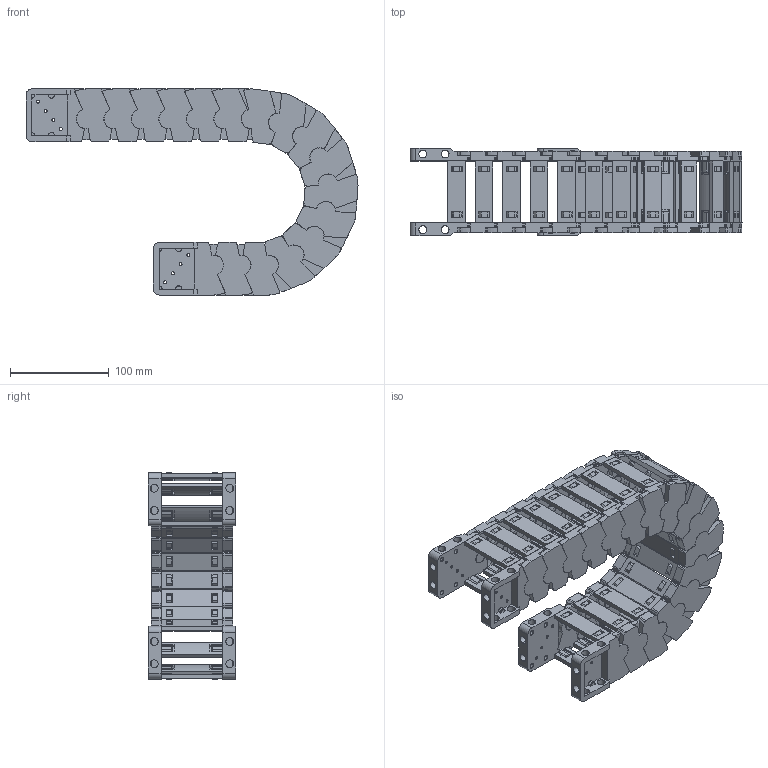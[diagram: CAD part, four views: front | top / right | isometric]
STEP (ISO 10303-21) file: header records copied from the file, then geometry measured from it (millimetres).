
FILE_DESCRIPTION((''),'2;1');
FILE_NAME('JY-42X62-R75_ASM','2022-05-06T10:46:45',('admin'),(''),'CREO PARAMETRIC BY PTC INC, 2021164','CREO PARAMETRIC BY PTC INC, 2021164','');
FILE_SCHEMA(('CONFIG_CONTROL_DESIGN','GEOMETRIC_VALIDATION_PROPERTIES_MIM'));
Length unit declared in the file: millimetre
Products named in the file (11): 42XL-L; 42-52XL-YP; 42XL-R; ASM0001_ASM; 42-LTT-A-L; 42-LTT-A-R; 42XL-LTT-A_ASM; 42-LTT-B-L; 42-LTT-B-R; 42XL-LTT-B_ASM; JY-42X62-R75_ASM
Assembly tree (30 placements, depth 3):
  JY-42X62-R75_ASM
    ASM0001_ASM  x16
      42XL-L
      42-52XL-YP
      42XL-R
    42XL-LTT-A_ASM
      42-LTT-A-L
      42-52XL-YP  x2
      42-LTT-A-R
    42XL-LTT-B_ASM
      42-LTT-B-L
      42-52XL-YP  x2
      42-LTT-B-R
Bounding box: 335.76 x 88.5 x 208.45 mm (x, y, z)
Volume: 678080.2 mm3; surface area: 397998.6 mm2
Topology: 72 solids, 72 shells, 3978 faces, 11912 edges, 8060 vertices
Faces by surface type: plane 2638, cylinder 930, cone 326, bspline 66, torus 18
Entity records: 27215 total; most frequent: CARTESIAN_POINT 7384, ORIENTED_EDGE 4024, DIRECTION 3958, EDGE_CURVE 2012, AXIS2_PLACEMENT_3D 1429, VERTEX_POINT 1360, VECTOR 1100, LINE 1100
